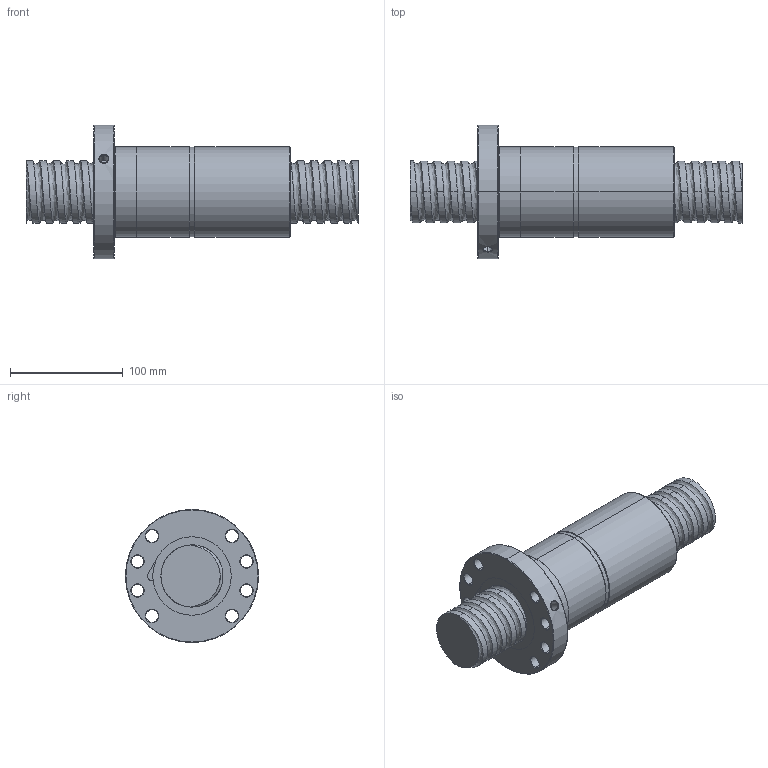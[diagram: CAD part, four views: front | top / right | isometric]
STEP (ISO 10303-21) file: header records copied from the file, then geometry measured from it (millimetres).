
FILE_DESCRIPTION (( 'STEP AP214' ), '1' );
FILE_NAME ('FDDC05512T5-F-A.STEP', '2010-07-07T01:35:40', ( 'XPAUTO' ), ( 'XPAUTO' ), 'SwSTEP 2.0', 'SolidWorks 2007', '' );
FILE_SCHEMA (( 'AUTOMOTIVE_DESIGN' ));
Length unit declared in the file: millimetre
Products named in the file (3): FDDC05512T5-F-A.sldasm-Part-1_預設; FDDC05512T5-F-A.sldasm-Part-2_預設; FDDC05512T5-F-A
Assembly tree (2 placements, depth 2):
  FDDC05512T5-F-A
    FDDC05512T5-F-A.sldasm-Part-1_預設
    FDDC05512T5-F-A.sldasm-Part-2_預設
Bounding box: 294 x 118 x 118 mm (x, y, z)
Volume: 1197910.1 mm3; surface area: 161295.5 mm2
Topology: 2 solids, 2 shells, 157 faces, 393 edges, 245 vertices
Faces by surface type: cylinder 94, cone 32, plane 16, torus 10, bspline 5
Entity records: 47262 total; most frequent: CARTESIAN_POINT 43533, ORIENTED_EDGE 786, DIRECTION 727, EDGE_CURVE 393, AXIS2_PLACEMENT_3D 297, VERTEX_POINT 245, EDGE_LOOP 182, FACE_OUTER_BOUND 157
